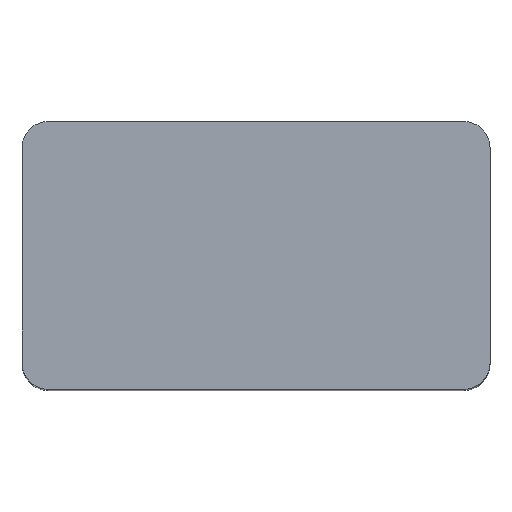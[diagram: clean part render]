
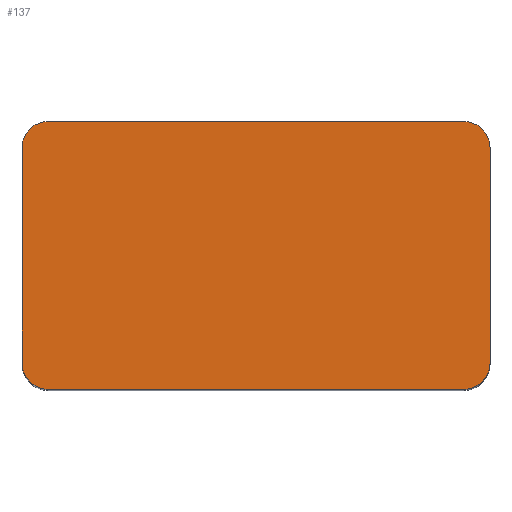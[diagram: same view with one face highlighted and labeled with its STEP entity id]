
A CAD part, top view. The second image highlights one B-rep face of the part: STEP entity #137.
In plain terms, the highlighted planar face has unit normal (0, 0, 1).
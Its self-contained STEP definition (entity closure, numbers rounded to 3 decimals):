
#21 = EDGE_CURVE('',#22,#24,#26,.T.);
#22 = VERTEX_POINT('',#23);
#23 = CARTESIAN_POINT('',(-1.015,-1.635,11.66));
#24 = VERTEX_POINT('',#25);
#25 = CARTESIAN_POINT('',(-1.015,1.635,11.66));
#26 = SURFACE_CURVE('',#27,(#31,#43),.PCURVE_S1.);
#27 = LINE('',#28,#29);
#28 = CARTESIAN_POINT('',(-1.015,-2.035,11.66));
#29 = VECTOR('',#30,1.);
#30 = DIRECTION('',(0.,1.,0.));
#31 = PCURVE('',#32,#37);
#32 = PLANE('',#33);
#33 = AXIS2_PLACEMENT_3D('',#34,#35,#36);
#34 = CARTESIAN_POINT('',(-1.015,-2.035,1.5));
#35 = DIRECTION('',(1.,0.,0.));
#36 = DIRECTION('',(0.,0.,1.));
#37 = DEFINITIONAL_REPRESENTATION('',(#38),#42);
#38 = LINE('',#39,#40);
#39 = CARTESIAN_POINT('',(10.16,0.));
#40 = VECTOR('',#41,1.);
#41 = DIRECTION('',(0.,-1.));
#42 = ( GEOMETRIC_REPRESENTATION_CONTEXT(2) 
PARAMETRIC_REPRESENTATION_CONTEXT() REPRESENTATION_CONTEXT('2D SPACE',''
  ) );
#43 = PCURVE('',#44,#49);
#44 = PLANE('',#45);
#45 = AXIS2_PLACEMENT_3D('',#46,#47,#48);
#46 = CARTESIAN_POINT('',(-1.015,-2.035,11.66));
#47 = DIRECTION('',(0.,0.,1.));
#48 = DIRECTION('',(1.,0.,0.));
#49 = DEFINITIONAL_REPRESENTATION('',(#50),#54);
#50 = LINE('',#51,#52);
#51 = CARTESIAN_POINT('',(0.,0.));
#52 = VECTOR('',#53,1.);
#53 = DIRECTION('',(0.,1.));
#54 = ( GEOMETRIC_REPRESENTATION_CONTEXT(2) 
PARAMETRIC_REPRESENTATION_CONTEXT() REPRESENTATION_CONTEXT('2D SPACE',''
  ) );
#72 = CYLINDRICAL_SURFACE('',#73,0.4);
#73 = AXIS2_PLACEMENT_3D('',#74,#75,#76);
#74 = CARTESIAN_POINT('',(-0.615,-1.635,1.5));
#75 = DIRECTION('',(0.,0.,1.));
#76 = DIRECTION('',(-1.,-0.,0.));
#126 = CYLINDRICAL_SURFACE('',#127,0.4);
#127 = AXIS2_PLACEMENT_3D('',#128,#129,#130);
#128 = CARTESIAN_POINT('',(-0.615,1.635,1.5));
#129 = DIRECTION('',(0.,0.,1.));
#130 = DIRECTION('',(-1.,-0.,0.));
#137 = ADVANCED_FACE('',(#138),#44,.T.);
#138 = FACE_BOUND('',#139,.T.);
#139 = EDGE_LOOP('',(#140,#141,#165,#193,#226,#254,#283,#311));
#140 = ORIENTED_EDGE('',*,*,#21,.F.);
#141 = ORIENTED_EDGE('',*,*,#142,.T.);
#142 = EDGE_CURVE('',#22,#143,#145,.T.);
#143 = VERTEX_POINT('',#144);
#144 = CARTESIAN_POINT('',(-0.615,-2.035,11.66));
#145 = SURFACE_CURVE('',#146,(#151,#158),.PCURVE_S1.);
#146 = CIRCLE('',#147,0.4);
#147 = AXIS2_PLACEMENT_3D('',#148,#149,#150);
#148 = CARTESIAN_POINT('',(-0.615,-1.635,11.66));
#149 = DIRECTION('',(0.,0.,1.));
#150 = DIRECTION('',(0.,-1.,0.));
#151 = PCURVE('',#44,#152);
#152 = DEFINITIONAL_REPRESENTATION('',(#153),#157);
#153 = CIRCLE('',#154,0.4);
#154 = AXIS2_PLACEMENT_2D('',#155,#156);
#155 = CARTESIAN_POINT('',(0.4,0.4));
#156 = DIRECTION('',(0.,-1.));
#157 = ( GEOMETRIC_REPRESENTATION_CONTEXT(2) 
PARAMETRIC_REPRESENTATION_CONTEXT() REPRESENTATION_CONTEXT('2D SPACE',''
  ) );
#158 = PCURVE('',#72,#159);
#159 = DEFINITIONAL_REPRESENTATION('',(#160),#164);
#160 = LINE('',#161,#162);
#161 = CARTESIAN_POINT('',(-4.712,10.16));
#162 = VECTOR('',#163,1.);
#163 = DIRECTION('',(1.,0.));
#164 = ( GEOMETRIC_REPRESENTATION_CONTEXT(2) 
PARAMETRIC_REPRESENTATION_CONTEXT() REPRESENTATION_CONTEXT('2D SPACE',''
  ) );
#165 = ORIENTED_EDGE('',*,*,#166,.T.);
#166 = EDGE_CURVE('',#143,#167,#169,.T.);
#167 = VERTEX_POINT('',#168);
#168 = CARTESIAN_POINT('',(5.695,-2.035,11.66));
#169 = SURFACE_CURVE('',#170,(#174,#181),.PCURVE_S1.);
#170 = LINE('',#171,#172);
#171 = CARTESIAN_POINT('',(-1.015,-2.035,11.66));
#172 = VECTOR('',#173,1.);
#173 = DIRECTION('',(1.,0.,0.));
#174 = PCURVE('',#44,#175);
#175 = DEFINITIONAL_REPRESENTATION('',(#176),#180);
#176 = LINE('',#177,#178);
#177 = CARTESIAN_POINT('',(0.,0.));
#178 = VECTOR('',#179,1.);
#179 = DIRECTION('',(1.,0.));
#180 = ( GEOMETRIC_REPRESENTATION_CONTEXT(2) 
PARAMETRIC_REPRESENTATION_CONTEXT() REPRESENTATION_CONTEXT('2D SPACE',''
  ) );
#181 = PCURVE('',#182,#187);
#182 = PLANE('',#183);
#183 = AXIS2_PLACEMENT_3D('',#184,#185,#186);
#184 = CARTESIAN_POINT('',(-1.015,-2.035,1.5));
#185 = DIRECTION('',(0.,1.,0.));
#186 = DIRECTION('',(0.,0.,1.));
#187 = DEFINITIONAL_REPRESENTATION('',(#188),#192);
#188 = LINE('',#189,#190);
#189 = CARTESIAN_POINT('',(10.16,0.));
#190 = VECTOR('',#191,1.);
#191 = DIRECTION('',(0.,1.));
#192 = ( GEOMETRIC_REPRESENTATION_CONTEXT(2) 
PARAMETRIC_REPRESENTATION_CONTEXT() REPRESENTATION_CONTEXT('2D SPACE',''
  ) );
#193 = ORIENTED_EDGE('',*,*,#194,.F.);
#194 = EDGE_CURVE('',#195,#167,#197,.T.);
#195 = VERTEX_POINT('',#196);
#196 = CARTESIAN_POINT('',(6.095,-1.635,11.66));
#197 = SURFACE_CURVE('',#198,(#203,#214),.PCURVE_S1.);
#198 = CIRCLE('',#199,0.4);
#199 = AXIS2_PLACEMENT_3D('',#200,#201,#202);
#200 = CARTESIAN_POINT('',(5.695,-1.635,11.66));
#201 = DIRECTION('',(-0.,-0.,-1.));
#202 = DIRECTION('',(0.,-1.,0.));
#203 = PCURVE('',#44,#204);
#204 = DEFINITIONAL_REPRESENTATION('',(#205),#213);
#205 = ( BOUNDED_CURVE() B_SPLINE_CURVE(2,(#206,#207,#208,#209,#210,#211
,#212),.UNSPECIFIED.,.T.,.F.) B_SPLINE_CURVE_WITH_KNOTS((1,2,2,2,2,1),(
    -2.094,0.,2.094,4.189,6.283,
8.378),.UNSPECIFIED.) CURVE() GEOMETRIC_REPRESENTATION_ITEM() 
RATIONAL_B_SPLINE_CURVE((1.,0.5,1.,0.5,1.,0.5,1.)) REPRESENTATION_ITEM(
  '') );
#206 = CARTESIAN_POINT('',(6.71,0.));
#207 = CARTESIAN_POINT('',(6.017,0.));
#208 = CARTESIAN_POINT('',(6.364,0.6));
#209 = CARTESIAN_POINT('',(6.71,1.2));
#210 = CARTESIAN_POINT('',(7.056,0.6));
#211 = CARTESIAN_POINT('',(7.403,0.));
#212 = CARTESIAN_POINT('',(6.71,0.));
#213 = ( GEOMETRIC_REPRESENTATION_CONTEXT(2) 
PARAMETRIC_REPRESENTATION_CONTEXT() REPRESENTATION_CONTEXT('2D SPACE',''
  ) );
#214 = PCURVE('',#215,#220);
#215 = CYLINDRICAL_SURFACE('',#216,0.4);
#216 = AXIS2_PLACEMENT_3D('',#217,#218,#219);
#217 = CARTESIAN_POINT('',(5.695,-1.635,1.5));
#218 = DIRECTION('',(0.,0.,1.));
#219 = DIRECTION('',(1.,0.,-0.));
#220 = DEFINITIONAL_REPRESENTATION('',(#221),#225);
#221 = LINE('',#222,#223);
#222 = CARTESIAN_POINT('',(4.712,10.16));
#223 = VECTOR('',#224,1.);
#224 = DIRECTION('',(-1.,0.));
#225 = ( GEOMETRIC_REPRESENTATION_CONTEXT(2) 
PARAMETRIC_REPRESENTATION_CONTEXT() REPRESENTATION_CONTEXT('2D SPACE',''
  ) );
#226 = ORIENTED_EDGE('',*,*,#227,.T.);
#227 = EDGE_CURVE('',#195,#228,#230,.T.);
#228 = VERTEX_POINT('',#229);
#229 = CARTESIAN_POINT('',(6.095,1.635,11.66));
#230 = SURFACE_CURVE('',#231,(#235,#242),.PCURVE_S1.);
#231 = LINE('',#232,#233);
#232 = CARTESIAN_POINT('',(6.095,-2.035,11.66));
#233 = VECTOR('',#234,1.);
#234 = DIRECTION('',(0.,1.,0.));
#235 = PCURVE('',#44,#236);
#236 = DEFINITIONAL_REPRESENTATION('',(#237),#241);
#237 = LINE('',#238,#239);
#238 = CARTESIAN_POINT('',(7.11,0.));
#239 = VECTOR('',#240,1.);
#240 = DIRECTION('',(0.,1.));
#241 = ( GEOMETRIC_REPRESENTATION_CONTEXT(2) 
PARAMETRIC_REPRESENTATION_CONTEXT() REPRESENTATION_CONTEXT('2D SPACE',''
  ) );
#242 = PCURVE('',#243,#248);
#243 = PLANE('',#244);
#244 = AXIS2_PLACEMENT_3D('',#245,#246,#247);
#245 = CARTESIAN_POINT('',(6.095,-2.035,1.5));
#246 = DIRECTION('',(1.,0.,0.));
#247 = DIRECTION('',(0.,0.,1.));
#248 = DEFINITIONAL_REPRESENTATION('',(#249),#253);
#249 = LINE('',#250,#251);
#250 = CARTESIAN_POINT('',(10.16,0.));
#251 = VECTOR('',#252,1.);
#252 = DIRECTION('',(0.,-1.));
#253 = ( GEOMETRIC_REPRESENTATION_CONTEXT(2) 
PARAMETRIC_REPRESENTATION_CONTEXT() REPRESENTATION_CONTEXT('2D SPACE',''
  ) );
#254 = ORIENTED_EDGE('',*,*,#255,.T.);
#255 = EDGE_CURVE('',#228,#256,#258,.T.);
#256 = VERTEX_POINT('',#257);
#257 = CARTESIAN_POINT('',(5.695,2.035,11.66));
#258 = SURFACE_CURVE('',#259,(#264,#271),.PCURVE_S1.);
#259 = CIRCLE('',#260,0.4);
#260 = AXIS2_PLACEMENT_3D('',#261,#262,#263);
#261 = CARTESIAN_POINT('',(5.695,1.635,11.66));
#262 = DIRECTION('',(0.,0.,1.));
#263 = DIRECTION('',(0.,-1.,0.));
#264 = PCURVE('',#44,#265);
#265 = DEFINITIONAL_REPRESENTATION('',(#266),#270);
#266 = CIRCLE('',#267,0.4);
#267 = AXIS2_PLACEMENT_2D('',#268,#269);
#268 = CARTESIAN_POINT('',(6.71,3.67));
#269 = DIRECTION('',(0.,-1.));
#270 = ( GEOMETRIC_REPRESENTATION_CONTEXT(2) 
PARAMETRIC_REPRESENTATION_CONTEXT() REPRESENTATION_CONTEXT('2D SPACE',''
  ) );
#271 = PCURVE('',#272,#277);
#272 = CYLINDRICAL_SURFACE('',#273,0.4);
#273 = AXIS2_PLACEMENT_3D('',#274,#275,#276);
#274 = CARTESIAN_POINT('',(5.695,1.635,1.5));
#275 = DIRECTION('',(0.,0.,1.));
#276 = DIRECTION('',(1.,0.,-0.));
#277 = DEFINITIONAL_REPRESENTATION('',(#278),#282);
#278 = LINE('',#279,#280);
#279 = CARTESIAN_POINT('',(-1.571,10.16));
#280 = VECTOR('',#281,1.);
#281 = DIRECTION('',(1.,0.));
#282 = ( GEOMETRIC_REPRESENTATION_CONTEXT(2) 
PARAMETRIC_REPRESENTATION_CONTEXT() REPRESENTATION_CONTEXT('2D SPACE',''
  ) );
#283 = ORIENTED_EDGE('',*,*,#284,.F.);
#284 = EDGE_CURVE('',#285,#256,#287,.T.);
#285 = VERTEX_POINT('',#286);
#286 = CARTESIAN_POINT('',(-0.615,2.035,11.66));
#287 = SURFACE_CURVE('',#288,(#292,#299),.PCURVE_S1.);
#288 = LINE('',#289,#290);
#289 = CARTESIAN_POINT('',(-1.015,2.035,11.66));
#290 = VECTOR('',#291,1.);
#291 = DIRECTION('',(1.,0.,0.));
#292 = PCURVE('',#44,#293);
#293 = DEFINITIONAL_REPRESENTATION('',(#294),#298);
#294 = LINE('',#295,#296);
#295 = CARTESIAN_POINT('',(0.,4.07));
#296 = VECTOR('',#297,1.);
#297 = DIRECTION('',(1.,0.));
#298 = ( GEOMETRIC_REPRESENTATION_CONTEXT(2) 
PARAMETRIC_REPRESENTATION_CONTEXT() REPRESENTATION_CONTEXT('2D SPACE',''
  ) );
#299 = PCURVE('',#300,#305);
#300 = PLANE('',#301);
#301 = AXIS2_PLACEMENT_3D('',#302,#303,#304);
#302 = CARTESIAN_POINT('',(-1.015,2.035,1.5));
#303 = DIRECTION('',(0.,1.,0.));
#304 = DIRECTION('',(0.,0.,1.));
#305 = DEFINITIONAL_REPRESENTATION('',(#306),#310);
#306 = LINE('',#307,#308);
#307 = CARTESIAN_POINT('',(10.16,0.));
#308 = VECTOR('',#309,1.);
#309 = DIRECTION('',(0.,1.));
#310 = ( GEOMETRIC_REPRESENTATION_CONTEXT(2) 
PARAMETRIC_REPRESENTATION_CONTEXT() REPRESENTATION_CONTEXT('2D SPACE',''
  ) );
#311 = ORIENTED_EDGE('',*,*,#312,.F.);
#312 = EDGE_CURVE('',#24,#285,#313,.T.);
#313 = SURFACE_CURVE('',#314,(#319,#330),.PCURVE_S1.);
#314 = CIRCLE('',#315,0.4);
#315 = AXIS2_PLACEMENT_3D('',#316,#317,#318);
#316 = CARTESIAN_POINT('',(-0.615,1.635,11.66));
#317 = DIRECTION('',(-0.,-0.,-1.));
#318 = DIRECTION('',(0.,-1.,0.));
#319 = PCURVE('',#44,#320);
#320 = DEFINITIONAL_REPRESENTATION('',(#321),#329);
#321 = ( BOUNDED_CURVE() B_SPLINE_CURVE(2,(#322,#323,#324,#325,#326,#327
,#328),.UNSPECIFIED.,.T.,.F.) B_SPLINE_CURVE_WITH_KNOTS((1,2,2,2,2,1),(
    -2.094,0.,2.094,4.189,6.283,
8.378),.UNSPECIFIED.) CURVE() GEOMETRIC_REPRESENTATION_ITEM() 
RATIONAL_B_SPLINE_CURVE((1.,0.5,1.,0.5,1.,0.5,1.)) REPRESENTATION_ITEM(
  '') );
#322 = CARTESIAN_POINT('',(0.4,3.27));
#323 = CARTESIAN_POINT('',(-0.293,3.27));
#324 = CARTESIAN_POINT('',(0.054,3.87));
#325 = CARTESIAN_POINT('',(0.4,4.47));
#326 = CARTESIAN_POINT('',(0.746,3.87));
#327 = CARTESIAN_POINT('',(1.093,3.27));
#328 = CARTESIAN_POINT('',(0.4,3.27));
#329 = ( GEOMETRIC_REPRESENTATION_CONTEXT(2) 
PARAMETRIC_REPRESENTATION_CONTEXT() REPRESENTATION_CONTEXT('2D SPACE',''
  ) );
#330 = PCURVE('',#126,#331);
#331 = DEFINITIONAL_REPRESENTATION('',(#332),#336);
#332 = LINE('',#333,#334);
#333 = CARTESIAN_POINT('',(1.571,10.16));
#334 = VECTOR('',#335,1.);
#335 = DIRECTION('',(-1.,0.));
#336 = ( GEOMETRIC_REPRESENTATION_CONTEXT(2) 
PARAMETRIC_REPRESENTATION_CONTEXT() REPRESENTATION_CONTEXT('2D SPACE',''
  ) );
